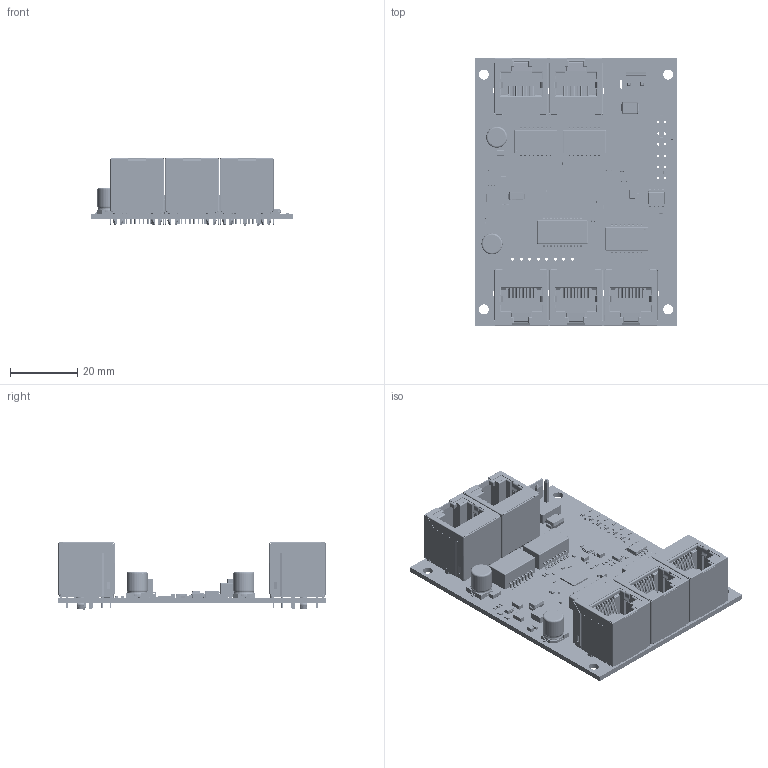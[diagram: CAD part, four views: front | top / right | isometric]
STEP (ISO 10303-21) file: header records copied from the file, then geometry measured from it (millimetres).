
FILE_DESCRIPTION((''),'2;1');
FILE_NAME('LX-SWF505-ALL-02_ASM','2025-04-17T',('Administrator'),(''),'PRO/ENGINEER BY PARAMETRIC TECHNOLOGY CORPORATION, 2015240','PRO/ENGINEER BY PARAMETRIC TECHNOLOGY CORPORATION, 2015240','');
FILE_SCHEMA(('CONFIG_CONTROL_DESIGN'));
Products named in the file (355): BOARD_CCQT; TOPCOPPER_CCQT; BOTTOMCOPPER_CCQT; TOPFPCSTIFFENER_CCQT; BOTTOMFPCSTIFFENER_CCQT; 0805_C0805_L2_0-W1_3-H1_3_CCQT; C55_0805_C0805_L2_0-W1_3-H1_3_C_ASM; C6_0805_C0805_L2_0-W1_3-H1_3_CC_ASM; C19_0805_C0805_L2_0-W1_3-H1_3_C_ASM; ASM0001_ASM; C12_0805_C0805_L2_0-W1_3-H1_3_C_ASM; C0402_C0402_CCQT; C40_C0402_C0402_CCQT_ASM; C23_C0402_C0402_CCQT_ASM; C3_C0402_C0402_CCQT_ASM; C4_C0402_C0402_CCQT_ASM; C2_C0402_C0402_CCQT_ASM; C21_C0402_C0402_CCQT_ASM; C20_C0402_C0402_CCQT_ASM; C22_C0402_C0402_CCQT_ASM; C25_C0402_C0402_CCQT_ASM; 0402_C0402_CCQT; C1_0402_C0402_CCQT_ASM; C7_0402_C0402_CCQT_ASM; C8_0402_C0402_CCQT_ASM; C9_0402_C0402_CCQT_ASM; C10_0402_C0402_CCQT_ASM; C11_0402_C0402_CCQT_ASM; C13_0402_C0402_CCQT_ASM; C14_0402_C0402_CCQT_ASM; C15_0402_C0402_CCQT_ASM; C16_0402_C0402_CCQT_ASM; C17_0402_C0402_CCQT_ASM; C18_0402_C0402_CCQT_ASM; C26_0402_C0402_CCQT_ASM; C37_0402_C0402_CCQT_ASM; C5_C0402_C0402_CCQT_ASM; PRT0001; PRT0002; PRT0003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
Assembly tree (409 placements, depth 6):
  LX-SWF505-ALL-02_ASM
    EASYEDA_PCB_MODEL_CCQT_ASM
      BOARD_CCQT
      TOPCOPPER_CCQT
      BOTTOMCOPPER_CCQT
      TOPFPCSTIFFENER_CCQT
      BOTTOMFPCSTIFFENER_CCQT
      C55_0805_C0805_L2_0-W1_3-H1_3_C_ASM
        0805_C0805_L2_0-W1_3-H1_3_CCQT
      C6_0805_C0805_L2_0-W1_3-H1_3_CC_ASM
        0805_C0805_L2_0-W1_3-H1_3_CCQT
      C19_0805_C0805_L2_0-W1_3-H1_3_C_ASM
        0805_C0805_L2_0-W1_3-H1_3_CCQT
      ASM0001_ASM
        0805_C0805_L2_0-W1_3-H1_3_CCQT
      C12_0805_C0805_L2_0-W1_3-H1_3_C_ASM
        0805_C0805_L2_0-W1_3-H1_3_CCQT
      C40_C0402_C0402_CCQT_ASM
        C0402_C0402_CCQT
      C23_C0402_C0402_CCQT_ASM
        C0402_C0402_CCQT
      C3_C0402_C0402_CCQT_ASM
        C0402_C0402_CCQT
      C4_C0402_C0402_CCQT_ASM
        C0402_C0402_CCQT
      C2_C0402_C0402_CCQT_ASM
        C0402_C0402_CCQT
      C21_C0402_C0402_CCQT_ASM
        C0402_C0402_CCQT
      C20_C0402_C0402_CCQT_ASM
        C0402_C0402_CCQT
      C22_C0402_C0402_CCQT_ASM
        C0402_C0402_CCQT
      C25_C0402_C0402_CCQT_ASM
        C0402_C0402_CCQT
      C1_0402_C0402_CCQT_ASM
        0402_C0402_CCQT
      C7_0402_C0402_CCQT_ASM
        0402_C0402_CCQT
      C8_0402_C0402_CCQT_ASM
        0402_C0402_CCQT
      C9_0402_C0402_CCQT_ASM
        0402_C0402_CCQT
      C10_0402_C0402_CCQT_ASM
        0402_C0402_CCQT
      C11_0402_C0402_CCQT_ASM
        0402_C0402_CCQT
      C13_0402_C0402_CCQT_ASM
        0402_C0402_CCQT
      C14_0402_C0402_CCQT_ASM
        0402_C0402_CCQT
      C15_0402_C0402_CCQT_ASM
        0402_C0402_CCQT
      C16_0402_C0402_CCQT_ASM
        0402_C0402_CCQT
      C17_0402_C0402_CCQT_ASM
        0402_C0402_CCQT
      C18_0402_C0402_CCQT_ASM
        0402_C0402_CCQT
      C26_0402_C0402_CCQT_ASM
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Bounding box: 59.97 x 79.97 x 20.05 mm (x, y, z)
Volume: 22439.6 mm3; surface area: 47827.5 mm2
Topology: 452 solids, 452 shells, 30666 faces, 83101 edges, 54653 vertices
Faces by surface type: plane 18320, extrusion 7457, cylinder 4195, sphere 332, torus 290, cone 52, bspline 20
Entity records: 359877 total; most frequent: CARTESIAN_POINT 95811, ORIENTED_EDGE 56410, DIRECTION 46606, EDGE_CURVE 28205, VECTOR 21870, LINE 19585, VERTEX_POINT 18851, AXIS2_PLACEMENT_3D 12368
